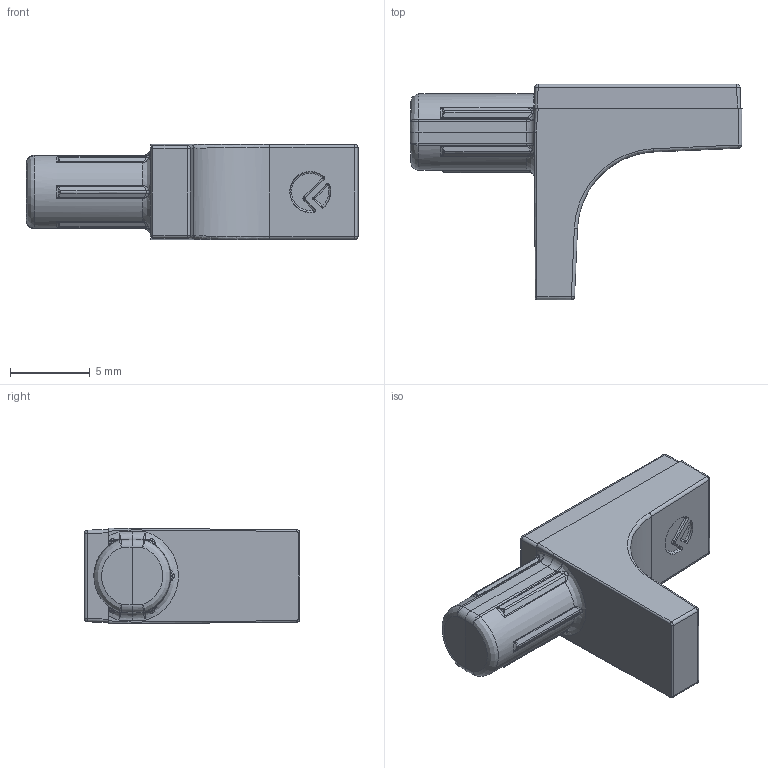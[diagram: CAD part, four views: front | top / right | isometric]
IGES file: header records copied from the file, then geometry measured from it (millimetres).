
Start section:  PTC IGES file: 10208030.igs
Global section: file name: 10208030.igs; native system: Pro/ENGINEER by Parametric Technology Corporation; preprocessor: 2008490; author: Giulio01; organization: Unknown; date: 20090401.154911; units: millimetre
Bounding box: 20.8 x 13.5 x 6 mm (x, y, z)
Volume: 633.3 mm3; surface area: 570.9 mm2
Topology: 1 solids, 1 shells, 205 faces, 454 edges, 253 vertices
Faces by surface type: bspline 123, revolution 82
